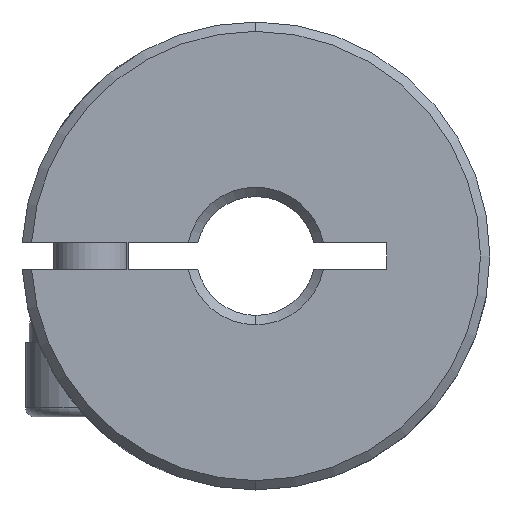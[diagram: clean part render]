
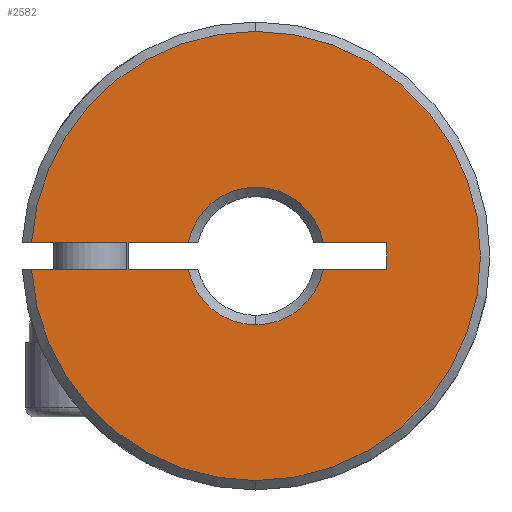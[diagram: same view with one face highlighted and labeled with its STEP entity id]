
A CAD part, front view. The second image highlights one B-rep face of the part: STEP entity #2582.
In plain terms, the highlighted planar face has unit normal (0, -1, 0).
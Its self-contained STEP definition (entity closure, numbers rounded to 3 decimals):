
#136 = CARTESIAN_POINT ( 'NONE',  ( -12.75, 0.25, 0.7 ) ) ;
#152 = LINE ( 'NONE', #4747, #2813 ) ;
#160 = LINE ( 'NONE', #2013, #672 ) ;
#202 = AXIS2_PLACEMENT_3D ( 'NONE', #4197, #2357, #3721 ) ;
#203 = CARTESIAN_POINT ( 'NONE',  ( 0., 0.25, 0. ) ) ;
#308 = ORIENTED_EDGE ( 'NONE', *, *, #4166, .F. ) ;
#436 = EDGE_CURVE ( 'NONE', #3974, #5740, #1788, .T. ) ;
#525 = ORIENTED_EDGE ( 'NONE', *, *, #553, .T. ) ;
#534 = VECTOR ( 'NONE', #4427, 1000. ) ;
#553 = EDGE_CURVE ( 'NONE', #1882, #3974, #4905, .T. ) ;
#608 = VERTEX_POINT ( 'NONE', #5493 ) ;
#612 = ORIENTED_EDGE ( 'NONE', *, *, #2661, .T. ) ;
#672 = VECTOR ( 'NONE', #2041, 1000. ) ;
#744 = DIRECTION ( 'NONE',  ( 0., 0., 1. ) ) ;
#787 = ORIENTED_EDGE ( 'NONE', *, *, #910, .F. ) ;
#799 = CARTESIAN_POINT ( 'NONE',  ( 7., 0.25, 0.7 ) ) ;
#816 = DIRECTION ( 'NONE',  ( 0., 1., 0. ) ) ;
#888 = AXIS2_PLACEMENT_3D ( 'NONE', #3760, #1416, #5226 ) ;
#891 = CARTESIAN_POINT ( 'NONE',  ( 0., 0.25, -12. ) ) ;
#910 = EDGE_CURVE ( 'NONE', #1077, #608, #160, .T. ) ;
#936 = CARTESIAN_POINT ( 'NONE',  ( -3.608, 0.25, -0.7 ) ) ;
#1033 = DIRECTION ( 'NONE',  ( -1., 0., 0. ) ) ;
#1077 = VERTEX_POINT ( 'NONE', #2323 ) ;
#1187 = VERTEX_POINT ( 'NONE', #936 ) ;
#1216 = EDGE_CURVE ( 'NONE', #5358, #1187, #152, .T. ) ;
#1227 = DIRECTION ( 'NONE',  ( 0., -1., 0. ) ) ;
#1272 = CARTESIAN_POINT ( 'NONE',  ( 0., 0.25, 0. ) ) ;
#1274 = LINE ( 'NONE', #136, #534 ) ;
#1333 = PLANE ( 'NONE',  #4716 ) ;
#1416 = DIRECTION ( 'NONE',  ( 0., 1., 0. ) ) ;
#1594 = DIRECTION ( 'NONE',  ( 0., -1., 0. ) ) ;
#1632 = DIRECTION ( 'NONE',  ( 0., 0., 1. ) ) ;
#1665 = DIRECTION ( 'NONE',  ( 0., 1., 0. ) ) ;
#1734 = ORIENTED_EDGE ( 'NONE', *, *, #5163, .F. ) ;
#1754 = DIRECTION ( 'NONE',  ( 0., 0., 1. ) ) ;
#1756 = CARTESIAN_POINT ( 'NONE',  ( -11.98, 0.25, 0.7 ) ) ;
#1788 = CIRCLE ( 'NONE', #4738, 12. ) ;
#1882 = VERTEX_POINT ( 'NONE', #891 ) ;
#2013 = CARTESIAN_POINT ( 'NONE',  ( -12.75, 0.25, -0.7 ) ) ;
#2041 = DIRECTION ( 'NONE',  ( 1., 0., 0. ) ) ;
#2298 = VECTOR ( 'NONE', #744, 1000. ) ;
#2323 = CARTESIAN_POINT ( 'NONE',  ( 3.608, 0.25, -0.7 ) ) ;
#2357 = DIRECTION ( 'NONE',  ( 0., 1., 0. ) ) ;
#2364 = ORIENTED_EDGE ( 'NONE', *, *, #5842, .T. ) ;
#2433 = CIRCLE ( 'NONE', #888, 3.675 ) ;
#2435 = CARTESIAN_POINT ( 'NONE',  ( 0., 0.25, 12. ) ) ;
#2582 = ADVANCED_FACE ( 'NONE', ( #2724 ), #1333, .F. ) ;
#2584 = EDGE_LOOP ( 'NONE', ( #787, #3388, #612, #3065, #5511, #525, #4898, #308, #2364, #4388, #1734 ) ) ;
#2604 = CARTESIAN_POINT ( 'NONE',  ( 0., 0.25, 0. ) ) ;
#2661 = EDGE_CURVE ( 'NONE', #3547, #1187, #2433, .T. ) ;
#2724 = FACE_OUTER_BOUND ( 'NONE', #2584, .T. ) ;
#2759 = CARTESIAN_POINT ( 'NONE',  ( -3.608, 0.25, 0.7 ) ) ;
#2813 = VECTOR ( 'NONE', #5160, 1000. ) ;
#2906 = VECTOR ( 'NONE', #1033, 1000. ) ;
#3065 = ORIENTED_EDGE ( 'NONE', *, *, #1216, .F. ) ;
#3137 = DIRECTION ( 'NONE',  ( 0., 0., 1. ) ) ;
#3388 = ORIENTED_EDGE ( 'NONE', *, *, #5643, .T. ) ;
#3547 = VERTEX_POINT ( 'NONE', #4049 ) ;
#3568 = DIRECTION ( 'NONE',  ( 0., -1., 0. ) ) ;
#3586 = CARTESIAN_POINT ( 'NONE',  ( 0., 0.25, 0. ) ) ;
#3652 = CARTESIAN_POINT ( 'NONE',  ( -500., 0.25, -13.609 ) ) ;
#3721 = DIRECTION ( 'NONE',  ( 0., 0., 1. ) ) ;
#3760 = CARTESIAN_POINT ( 'NONE',  ( 0., 0.25, 0. ) ) ;
#3831 = CARTESIAN_POINT ( 'NONE',  ( 3.608, 0.25, 0.7 ) ) ;
#3908 = CARTESIAN_POINT ( 'NONE',  ( -12.75, 0.25, 0.7 ) ) ;
#3960 = DIRECTION ( 'NONE',  ( 0., 0., 1. ) ) ;
#3974 = VERTEX_POINT ( 'NONE', #2435 ) ;
#4049 = CARTESIAN_POINT ( 'NONE',  ( 0., 0.25, -3.675 ) ) ;
#4107 = EDGE_CURVE ( 'NONE', #4161, #5386, #1274, .T. ) ;
#4161 = VERTEX_POINT ( 'NONE', #5803 ) ;
#4164 = LINE ( 'NONE', #3908, #2906 ) ;
#4166 = EDGE_CURVE ( 'NONE', #5277, #5740, #4164, .T. ) ;
#4197 = CARTESIAN_POINT ( 'NONE',  ( 0., 0.25, 0. ) ) ;
#4388 = ORIENTED_EDGE ( 'NONE', *, *, #4107, .F. ) ;
#4427 = DIRECTION ( 'NONE',  ( -1., 0., 0. ) ) ;
#4452 = CIRCLE ( 'NONE', #5006, 3.675 ) ;
#4460 = LINE ( 'NONE', #799, #2298 ) ;
#4522 = CIRCLE ( 'NONE', #4573, 12. ) ;
#4573 = AXIS2_PLACEMENT_3D ( 'NONE', #3586, #1227, #3137 ) ;
#4695 = CARTESIAN_POINT ( 'NONE',  ( -11.98, 0.25, -0.7 ) ) ;
#4716 = AXIS2_PLACEMENT_3D ( 'NONE', #3652, #816, #1754 ) ;
#4738 = AXIS2_PLACEMENT_3D ( 'NONE', #203, #1594, #1632 ) ;
#4747 = CARTESIAN_POINT ( 'NONE',  ( -12.75, 0.25, -0.7 ) ) ;
#4898 = ORIENTED_EDGE ( 'NONE', *, *, #436, .T. ) ;
#4905 = CIRCLE ( 'NONE', #4967, 12. ) ;
#4967 = AXIS2_PLACEMENT_3D ( 'NONE', #1272, #3568, #5952 ) ;
#5006 = AXIS2_PLACEMENT_3D ( 'NONE', #2604, #1665, #3960 ) ;
#5160 = DIRECTION ( 'NONE',  ( 1., 0., 0. ) ) ;
#5163 = EDGE_CURVE ( 'NONE', #608, #4161, #4460, .T. ) ;
#5226 = DIRECTION ( 'NONE',  ( 0., 0., 1. ) ) ;
#5259 = CIRCLE ( 'NONE', #202, 3.675 ) ;
#5277 = VERTEX_POINT ( 'NONE', #2759 ) ;
#5358 = VERTEX_POINT ( 'NONE', #4695 ) ;
#5386 = VERTEX_POINT ( 'NONE', #3831 ) ;
#5493 = CARTESIAN_POINT ( 'NONE',  ( 7., 0.25, -0.7 ) ) ;
#5511 = ORIENTED_EDGE ( 'NONE', *, *, #5791, .T. ) ;
#5643 = EDGE_CURVE ( 'NONE', #1077, #3547, #4452, .T. ) ;
#5740 = VERTEX_POINT ( 'NONE', #1756 ) ;
#5791 = EDGE_CURVE ( 'NONE', #5358, #1882, #4522, .T. ) ;
#5803 = CARTESIAN_POINT ( 'NONE',  ( 7., 0.25, 0.7 ) ) ;
#5842 = EDGE_CURVE ( 'NONE', #5277, #5386, #5259, .T. ) ;
#5952 = DIRECTION ( 'NONE',  ( 0., 0., 1. ) ) ;
